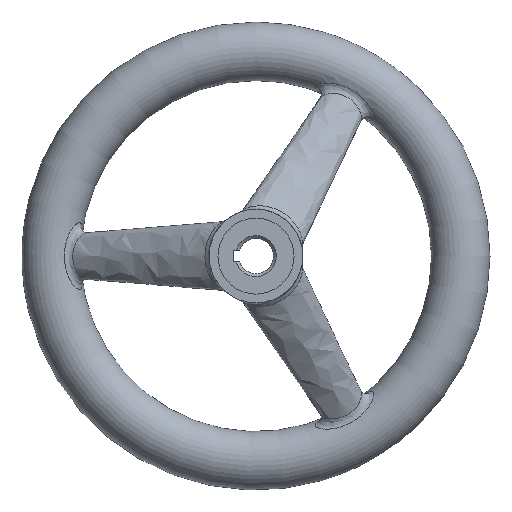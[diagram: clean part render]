
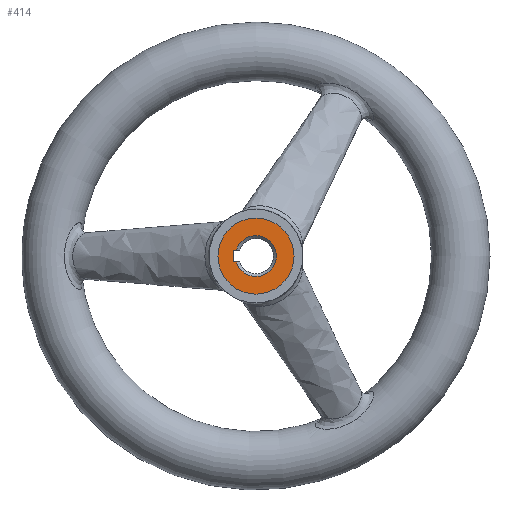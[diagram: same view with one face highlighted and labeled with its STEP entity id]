
A CAD part, left-side view. The second image highlights one B-rep face of the part: STEP entity #414.
In plain terms, the highlighted planar face has unit normal (-1, 0, 0).
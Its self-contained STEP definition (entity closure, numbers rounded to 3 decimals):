
#58=FACE_BOUND('',#119,.T.);
#61=LINE('',#587,#76);
#62=LINE('',#589,#77);
#63=LINE('',#590,#78);
#76=VECTOR('',#500,10.);
#77=VECTOR('',#501,10.);
#78=VECTOR('',#502,10.);
#91=PLANE('',#459);
#98=FACE_OUTER_BOUND('',#118,.T.);
#118=EDGE_LOOP('',(#280));
#119=EDGE_LOOP('',(#281,#282,#283,#284));
#140=CIRCLE('',#457,7.);
#142=CIRCLE('',#460,13.);
#164=VERTEX_POINT('',#572);
#165=VERTEX_POINT('',#576);
#167=VERTEX_POINT('',#584);
#168=VERTEX_POINT('',#586);
#169=VERTEX_POINT('',#588);
#209=EDGE_CURVE('',#164,#165,#140,.T.);
#212=EDGE_CURVE('',#167,#167,#142,.T.);
#213=EDGE_CURVE('',#164,#168,#61,.T.);
#214=EDGE_CURVE('',#168,#169,#62,.T.);
#215=EDGE_CURVE('',#169,#165,#63,.T.);
#280=ORIENTED_EDGE('',*,*,#212,.F.);
#281=ORIENTED_EDGE('',*,*,#209,.F.);
#282=ORIENTED_EDGE('',*,*,#213,.T.);
#283=ORIENTED_EDGE('',*,*,#214,.T.);
#284=ORIENTED_EDGE('',*,*,#215,.T.);
#414=ADVANCED_FACE('',(#98,#58),#91,.T.);
#457=AXIS2_PLACEMENT_3D('',#577,#492,#493);
#459=AXIS2_PLACEMENT_3D('',#583,#496,#497);
#460=AXIS2_PLACEMENT_3D('',#585,#498,#499);
#492=DIRECTION('center_axis',(-1.,0.,0.));
#493=DIRECTION('ref_axis',(0.,-1.,0.));
#496=DIRECTION('center_axis',(-1.,0.,0.));
#497=DIRECTION('ref_axis',(0.,0.,1.));
#498=DIRECTION('center_axis',(1.,0.,0.));
#499=DIRECTION('ref_axis',(0.,0.,-1.));
#500=DIRECTION('',(0.,1.,0.));
#501=DIRECTION('',(0.,0.,1.));
#502=DIRECTION('',(0.,-1.,0.));
#572=CARTESIAN_POINT('',(0.,6.708,-2.));
#576=CARTESIAN_POINT('',(0.,6.708,2.));
#577=CARTESIAN_POINT('Origin',(0.,0.,0.));
#583=CARTESIAN_POINT('Origin',(0.,13.,0.));
#584=CARTESIAN_POINT('',(0.,-13.,0.));
#585=CARTESIAN_POINT('Origin',(0.,0.,0.));
#586=CARTESIAN_POINT('',(0.,7.8,-2.));
#587=CARTESIAN_POINT('',(0.,10.4,-2.));
#588=CARTESIAN_POINT('',(0.,7.8,2.));
#589=CARTESIAN_POINT('',(0.,7.8,1.));
#590=CARTESIAN_POINT('',(0.,9.328,2.));
